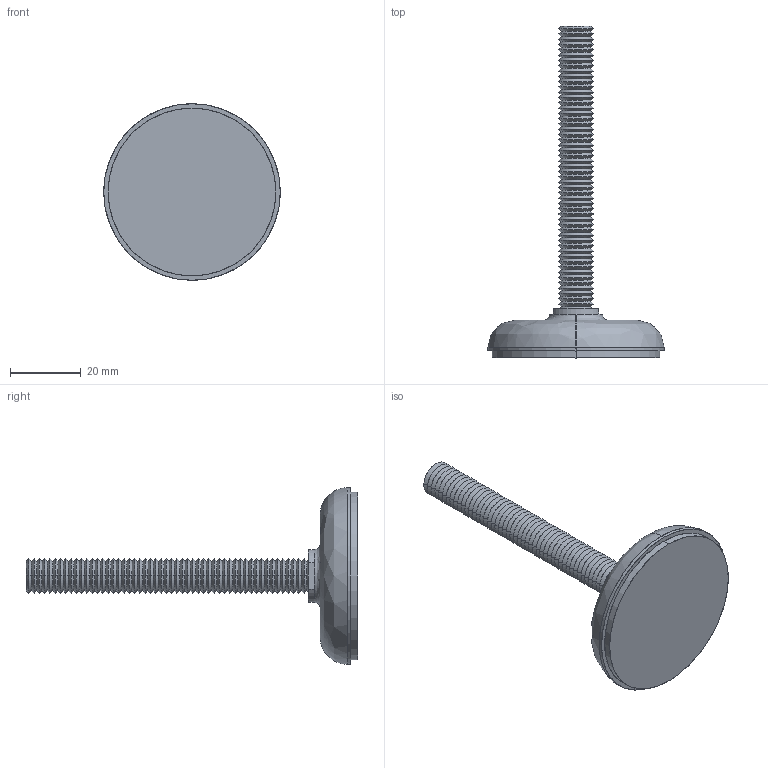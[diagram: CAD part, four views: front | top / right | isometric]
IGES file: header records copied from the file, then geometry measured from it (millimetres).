
Start section: SolidWorks IGES file using analytic representation for surfaces
Global section: file name: C:\Documents and Settings\IANO\Desktop\Temp File\Process pending\EXISTING\34780_v2\34780_v2_20170626_IGES\34780.W0110.igs; native system: SolidWorks 2009; preprocessor: SolidWorks 2009; author: IANO; date: 170626.122327; units: millimetre
Bounding box: 50 x 94 x 50 mm (x, y, z)
Surface area: 18488 mm2 (no closed solid volume)
Topology: 0 solids, 0 shells, 280 faces, 2066 edges, 2066 vertices
Faces by surface type: revolution 252, bspline 28
